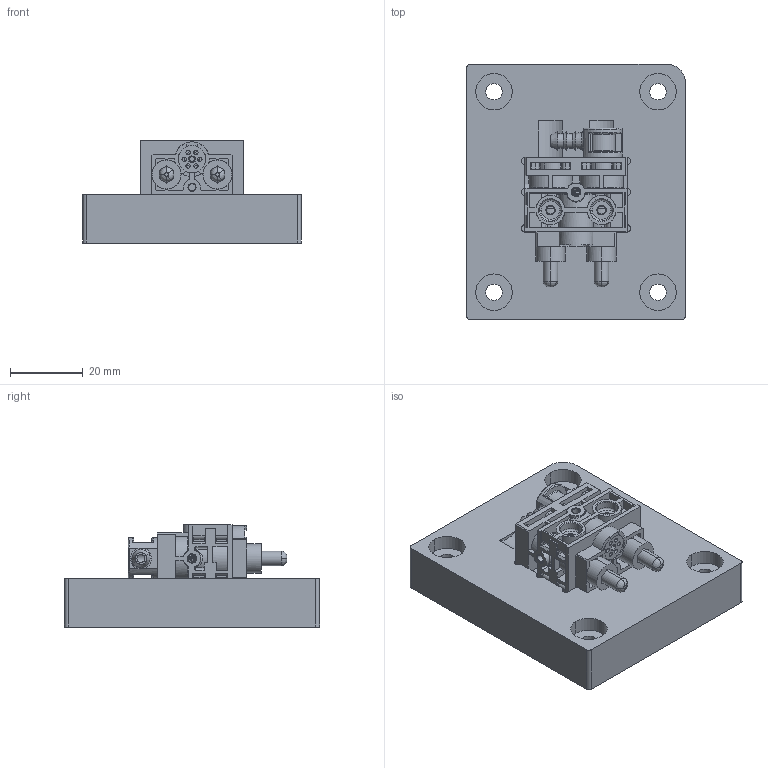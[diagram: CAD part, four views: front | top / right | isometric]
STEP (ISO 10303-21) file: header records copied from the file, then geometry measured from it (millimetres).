
FILE_DESCRIPTION(('CATIA V5 STEP Exchange'),'2;1');
FILE_NAME('D:\姚明阳\1、工装图纸\2、腰托阀（开关）治具工装 -2022.11.26更新\AGZL01 腰托阀压钢珠工装1\AGZL01 设计文件（pdf+stp）\AGZL01.03与其他工装件配合关系示意.stp','2022-12-28T03:24:00+00:00',('none'),('none'),'CATIA Version 5 Release 21 GA (IN-10)','CATIA V5 STEP AP214','none');
FILE_SCHEMA(('AUTOMOTIVE_DESIGN { 1 0 10303 214 1 1 1 1 }'));
Length unit declared in the file: millimetre
Products named in the file (16): AGZL01.00_V1; AGZL01.03_V2; BPC0010256; BPC0010200; BPC0010206; BPC0010207; BPC0010224; BSP0010038; BPC0010201; BPC0010210; BPC0010136; BSP0010037; BPC0010202; BPC0010204; SHT0002209; SHT0002205
Assembly tree (25 placements, depth 3):
  AGZL01.00_V1
    AGZL01.03_V2
    BPC0010256
      BPC0010200
      BPC0010206
      BPC0010207
      BPC0010224
      BSP0010038
      BPC0010201  x2
      BPC0010210  x4
      BPC0010136  x4
      BSP0010037  x2
      BPC0010202
      BPC0010204
      SHT0002209  x2
      SHT0002205  x2
Bounding box: 60 x 70 x 28 mm (x, y, z)
Volume: 60443.5 mm3; surface area: 26700.6 mm2
Topology: 24 solids, 28 shells, 1125 faces, 2999 edges, 1951 vertices
Faces by surface type: plane 460, cylinder 405, cone 92, torus 74, bspline 44, revolution 18, sphere 17, extrusion 15
Entity records: 36823 total; most frequent: CARTESIAN_POINT 13730, ORIENTED_EDGE 5260, DIRECTION 3628, EDGE_CURVE 2630, VERTEX_POINT 1725, AXIS2_PLACEMENT_3D 1509, VECTOR 1393, LINE 1378
